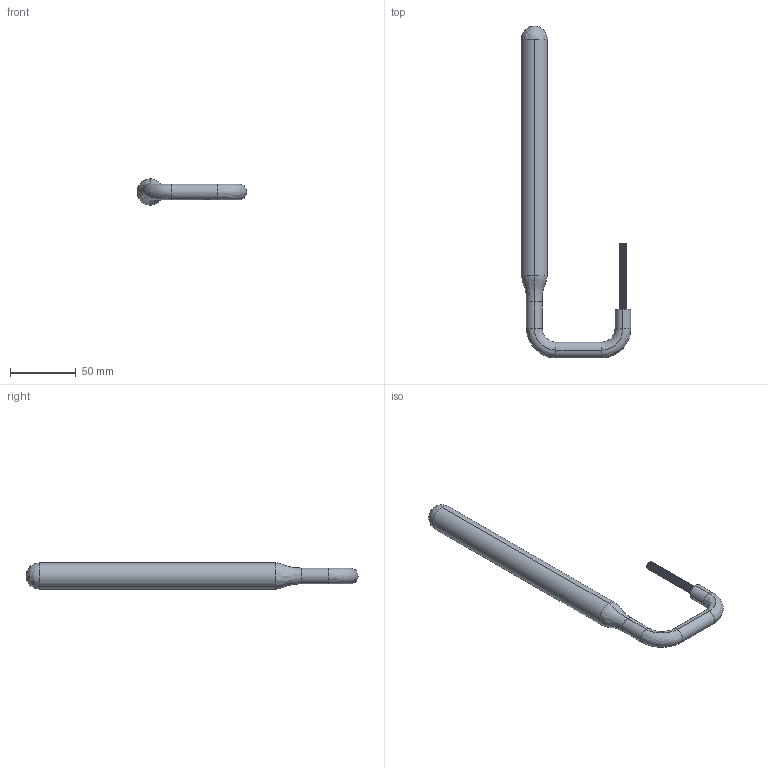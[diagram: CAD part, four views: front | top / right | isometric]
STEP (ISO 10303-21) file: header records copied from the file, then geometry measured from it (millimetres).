
FILE_DESCRIPTION(/* description */ (''),/* implementation_level */ '2;1');
FILE_NAME(/* name */ 'Option2.2',/* time_stamp */ '2026-08-19T16:51:35+02:00',/* author */ (''),/* organization */ (''),/* preprocessor_version */ 'ST-DEVELOPER v19.2',/* originating_system */ 'Rhino 8.34',/* authorisation */ '');
FILE_SCHEMA (('CONFIG_CONTROL_DESIGN'));
Length unit declared in the file: millimetre
Products named in the file (1): Document
Bounding box: 83.47 x 252.73 x 20 mm (x, y, z)
Volume: 77062.1 mm3; surface area: 19174.6 mm2
Topology: 1 solids, 1 shells, 422 faces, 895 edges, 474 vertices
Faces by surface type: bspline 311, cylinder 108, plane 3
Entity records: 15684 total; most frequent: CARTESIAN_POINT 7684, ORIENTED_EDGE 1786, DIRECTION 1255, EDGE_CURVE 893, AXIS2_PLACEMENT_3D 683, TRIMMED_CURVE 570, CIRCLE 570, VERTEX_POINT 474
